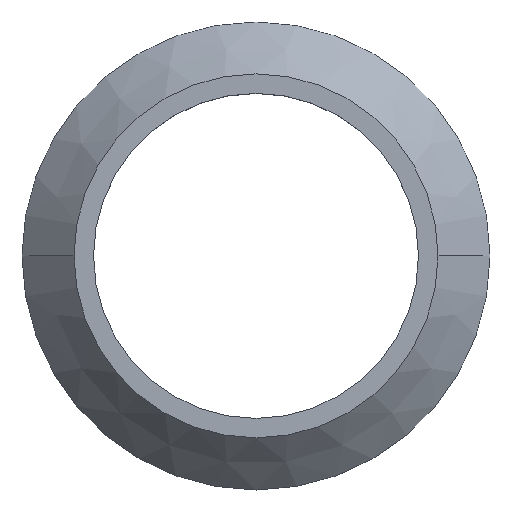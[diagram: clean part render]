
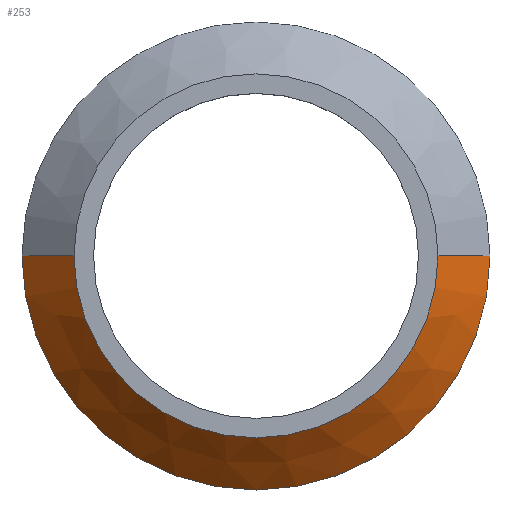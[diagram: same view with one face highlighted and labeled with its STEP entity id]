
A CAD part, top view. The second image highlights one B-rep face of the part: STEP entity #253.
In plain terms, the highlighted conical face has half-angle 45 degrees and reference radius 7 mm.
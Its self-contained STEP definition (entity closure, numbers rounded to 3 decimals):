
#5 = VECTOR ( 'NONE', #32, 1000. ) ;
#15 = VERTEX_POINT ( 'NONE', #128 ) ;
#20 = DIRECTION ( 'NONE',  ( 0., 0., -1. ) ) ;
#29 = EDGE_CURVE ( 'NONE', #15, #49, #99, .T. ) ;
#31 = CIRCLE ( 'NONE', #154, 9. ) ;
#32 = DIRECTION ( 'NONE',  ( 0.707, 0., -0.707 ) ) ;
#34 = EDGE_CURVE ( 'NONE', #106, #89, #31, .T. ) ;
#37 = CARTESIAN_POINT ( 'NONE',  ( 0., 0., 0. ) ) ;
#42 = DIRECTION ( 'NONE',  ( 0., 0., -1. ) ) ;
#49 = VERTEX_POINT ( 'NONE', #91 ) ;
#55 = CARTESIAN_POINT ( 'NONE',  ( -9., 0., 0. ) ) ;
#57 = VECTOR ( 'NONE', #113, 1000. ) ;
#65 = ORIENTED_EDGE ( 'NONE', *, *, #102, .T. ) ;
#67 = ORIENTED_EDGE ( 'NONE', *, *, #34, .F. ) ;
#76 = DIRECTION ( 'NONE',  ( 0., 0., 1. ) ) ;
#84 = FACE_OUTER_BOUND ( 'NONE', #108, .T. ) ;
#89 = VERTEX_POINT ( 'NONE', #55 ) ;
#90 = EDGE_CURVE ( 'NONE', #49, #106, #105, .T. ) ;
#91 = CARTESIAN_POINT ( 'NONE',  ( 7., 0., 2. ) ) ;
#99 = CIRCLE ( 'NONE', #189, 7. ) ;
#100 = LINE ( 'NONE', #135, #57 ) ;
#102 = EDGE_CURVE ( 'NONE', #15, #89, #100, .T. ) ;
#103 = ORIENTED_EDGE ( 'NONE', *, *, #29, .F. ) ;
#105 = LINE ( 'NONE', #132, #5 ) ;
#106 = VERTEX_POINT ( 'NONE', #138 ) ;
#108 = EDGE_LOOP ( 'NONE', ( #224, #103, #65, #67 ) ) ;
#113 = DIRECTION ( 'NONE',  ( -0.707, 0., -0.707 ) ) ;
#122 = CONICAL_SURFACE ( 'NONE', #252, 7., 0.785 ) ;
#128 = CARTESIAN_POINT ( 'NONE',  ( -7., 0., 2. ) ) ;
#132 = CARTESIAN_POINT ( 'NONE',  ( 7., 0., 2. ) ) ;
#135 = CARTESIAN_POINT ( 'NONE',  ( -7., 0., 2. ) ) ;
#138 = CARTESIAN_POINT ( 'NONE',  ( 9., 0., 0. ) ) ;
#144 = DIRECTION ( 'NONE',  ( -1., 0., 0. ) ) ;
#154 = AXIS2_PLACEMENT_3D ( 'NONE', #37, #20, #179 ) ;
#179 = DIRECTION ( 'NONE',  ( -1., 0., 0. ) ) ;
#189 = AXIS2_PLACEMENT_3D ( 'NONE', #258, #76, #217 ) ;
#217 = DIRECTION ( 'NONE',  ( 1., 0., 0. ) ) ;
#224 = ORIENTED_EDGE ( 'NONE', *, *, #90, .F. ) ;
#247 = CARTESIAN_POINT ( 'NONE',  ( 0., 0., 2. ) ) ;
#252 = AXIS2_PLACEMENT_3D ( 'NONE', #247, #42, #144 ) ;
#253 = ADVANCED_FACE ( 'NONE', ( #84 ), #122, .T. ) ;
#258 = CARTESIAN_POINT ( 'NONE',  ( 0., 0., 2. ) ) ;
